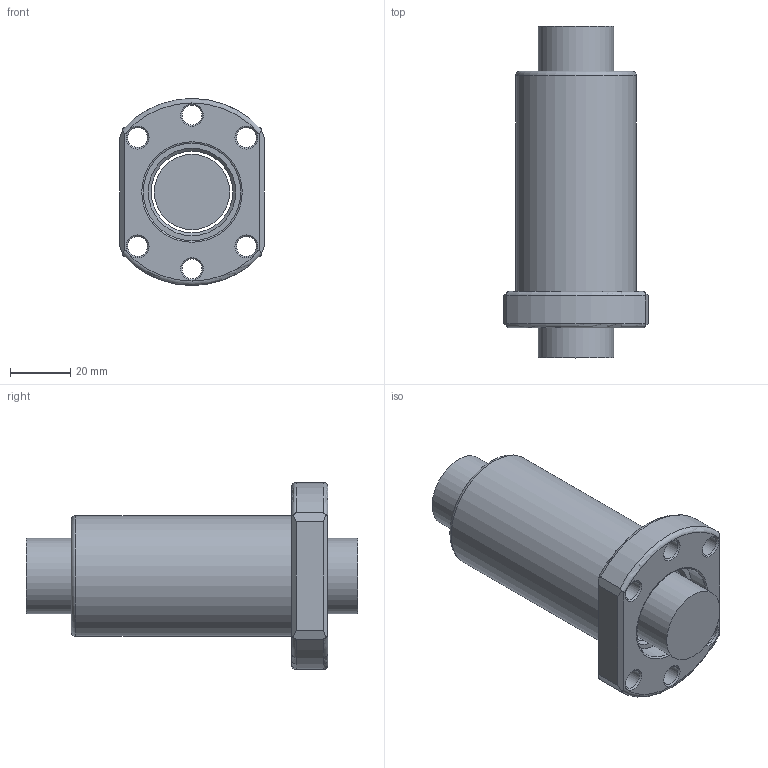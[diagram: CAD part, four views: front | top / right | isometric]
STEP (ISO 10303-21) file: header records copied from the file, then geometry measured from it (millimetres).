
FILE_DESCRIPTION(/* description */ (''),/* implementation_level */ '2;1');
FILE_NAME(/* name */ '2510.prt.step',/* time_stamp */ '2008-12-05T16:31:55+08:00',/* author */ (''),/* organization */ (''),/* preprocessor_version */ 'ST-DEVELOPER v11',/* originating_system */ 'SIEMENS UGS NX 6.0',/* authorisation */ '');
FILE_SCHEMA (('AUTOMOTIVE_DESIGN { 1 0 10303 214 1 1 1 1 }'));
Length unit declared in the file: millimetre
Products named in the file (1): 2510
Bounding box: 48 x 110 x 62 mm (x, y, z)
Volume: 122097.8 mm3; surface area: 33119.1 mm2
Topology: 2 solids, 2 shells, 51 faces, 118 edges, 74 vertices
Faces by surface type: plane 17, cone 14, cylinder 13, torus 7
Full cylindrical faces by diameter (mm): 6.6 x6, 24.95 x1, 27 x1, 32.3 x2, 40 x1
Entity records: 1546 total; most frequent: CARTESIAN_POINT 450, DIRECTION 222, ORIENTED_EDGE 174, AXIS2_PLACEMENT_3D 99, EDGE_LOOP 96, EDGE_CURVE 87, FACE_BOUND 78, VERTEX_POINT 71
